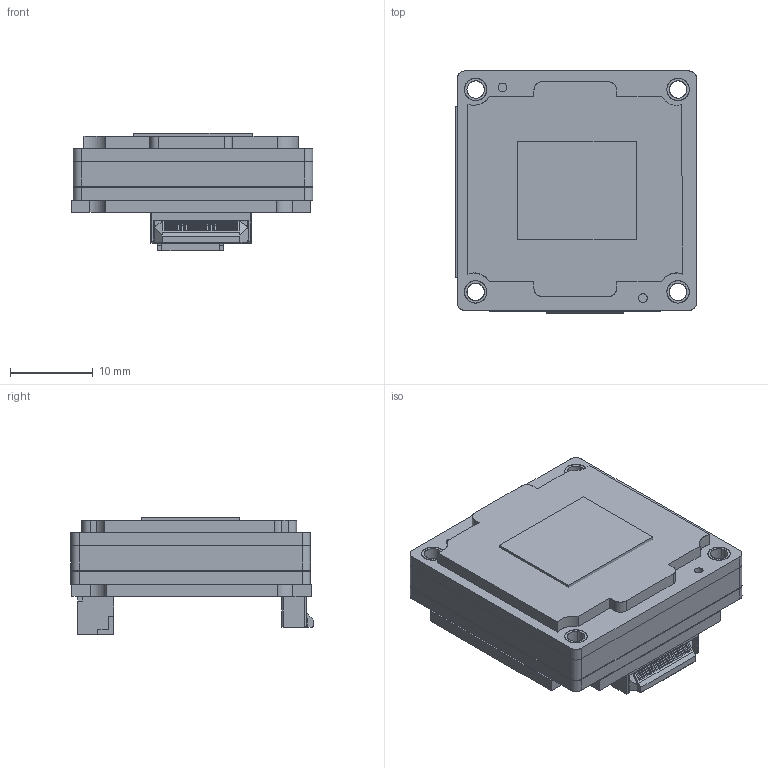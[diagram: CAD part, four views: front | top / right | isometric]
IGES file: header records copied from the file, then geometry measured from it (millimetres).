
Start section: SolidWorks IGES file using analytic representation for surfaces
Global section: file name: F:\mechanical\Documentation\BFS-BD\Models\BFS-U3-63S4M(C)-BD2.IGS; native system: SolidWorks 2018; preprocessor: SolidWorks 2018; author: DChou; date: 201123.111417; units: millimetre
Bounding box: 29.21 x 29.3 x 14.25 mm (x, y, z)
Surface area: 11250.1 mm2 (no closed solid volume)
Topology: 0 solids, 0 shells, 1109 faces, 8498 edges, 8497 vertices
Faces by surface type: bspline 887, revolution 222
